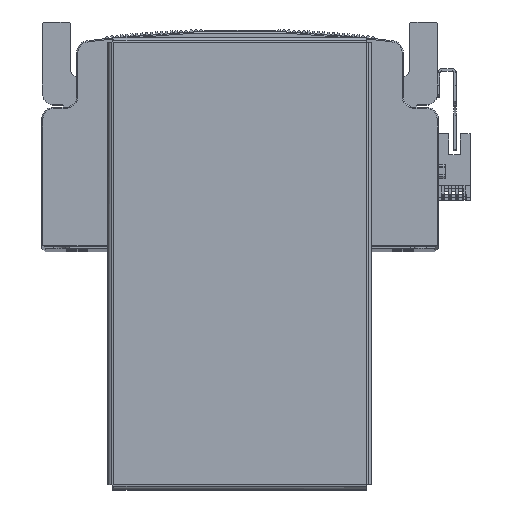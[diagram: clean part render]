
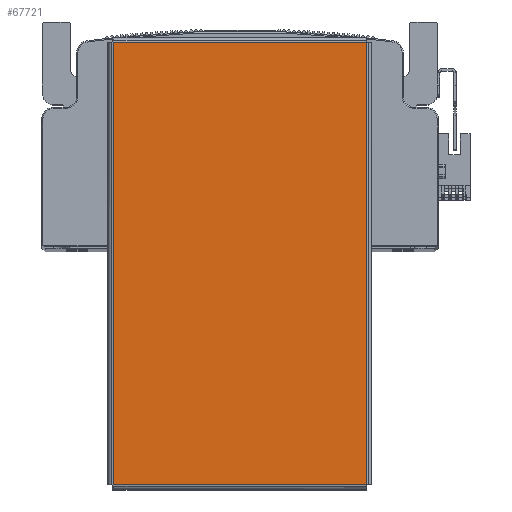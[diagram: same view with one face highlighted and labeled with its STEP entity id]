
A CAD part, top view. The second image highlights one B-rep face of the part: STEP entity #67721.
In plain terms, the highlighted planar face has unit normal (0, 0, 1) as drawn and (0, -1, 0) by its records, which use the part's own axes.
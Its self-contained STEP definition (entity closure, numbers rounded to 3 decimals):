
#6128 = LINE ( 'NONE', #44262, #6130 ) ;
#6130 = VECTOR ( 'NONE', #44277, 1000. ) ;
#6947 = VECTOR ( 'NONE', #54949, 1000. ) ;
#6953 = VECTOR ( 'NONE', #55002, 1000. ) ;
#6966 = LINE ( 'NONE', #54979, #6953 ) ;
#6981 = LINE ( 'NONE', #54946, #6947 ) ;
#13549 = EDGE_CURVE ( 'NONE', #57941, #58004, #49006, .T. ) ;
#25074 = CARTESIAN_POINT ( 'NONE',  ( 0., -1.5, 0. ) ) ;
#25076 = DIRECTION ( 'NONE',  ( 0., 1., 0. ) ) ;
#25083 = DIRECTION ( 'NONE',  ( 0., 0., 1. ) ) ;
#25099 = PLANE ( 'NONE',  #45462 ) ;
#28834 = CARTESIAN_POINT ( 'NONE',  ( 94.793, -1.5, 54.363 ) ) ;
#28912 = DIRECTION ( 'NONE',  ( -1., 0., 0. ) ) ;
#36318 = CARTESIAN_POINT ( 'NONE',  ( 94.763, -1.5, -54.363 ) ) ;
#36339 = CARTESIAN_POINT ( 'NONE',  ( 94.763, -1.5, 54.363 ) ) ;
#36380 = CARTESIAN_POINT ( 'NONE',  ( -94.763, -1.5, 54.363 ) ) ;
#36493 = CARTESIAN_POINT ( 'NONE',  ( -94.763, -1.5, -54.363 ) ) ;
#38886 = FACE_OUTER_BOUND ( 'NONE', #59935, .T. ) ;
#44262 = CARTESIAN_POINT ( 'NONE',  ( 94.763, -1.5, -54.393 ) ) ;
#44277 = DIRECTION ( 'NONE',  ( 0., 0., 1. ) ) ;
#45462 = AXIS2_PLACEMENT_3D ( 'NONE', #25074, #25076, #25083 ) ;
#46698 = ORIENTED_EDGE ( 'NONE', *, *, #13549, .T. ) ;
#46794 = ORIENTED_EDGE ( 'NONE', *, *, #56370, .T. ) ;
#46804 = ORIENTED_EDGE ( 'NONE', *, *, #56384, .T. ) ;
#46834 = ORIENTED_EDGE ( 'NONE', *, *, #56451, .T. ) ;
#49006 = LINE ( 'NONE', #28834, #49037 ) ;
#49037 = VECTOR ( 'NONE', #28912, 1000. ) ;
#54946 = CARTESIAN_POINT ( 'NONE',  ( -94.763, -1.5, 54.393 ) ) ;
#54949 = DIRECTION ( 'NONE',  ( 0., 0., -1. ) ) ;
#54979 = CARTESIAN_POINT ( 'NONE',  ( -94.793, -1.5, -54.363 ) ) ;
#55002 = DIRECTION ( 'NONE',  ( 1., 0., 0. ) ) ;
#56370 = EDGE_CURVE ( 'NONE', #58004, #58040, #6981, .T. ) ;
#56384 = EDGE_CURVE ( 'NONE', #58040, #57929, #6966, .T. ) ;
#56451 = EDGE_CURVE ( 'NONE', #57929, #57941, #6128, .T. ) ;
#57929 = VERTEX_POINT ( 'NONE', #36318 ) ;
#57941 = VERTEX_POINT ( 'NONE', #36339 ) ;
#58004 = VERTEX_POINT ( 'NONE', #36380 ) ;
#58040 = VERTEX_POINT ( 'NONE', #36493 ) ;
#59935 = EDGE_LOOP ( 'NONE', ( #46698, #46794, #46804, #46834 ) ) ;
#67721 = ADVANCED_FACE ( 'NONE', ( #38886 ), #25099, .F. ) ;
